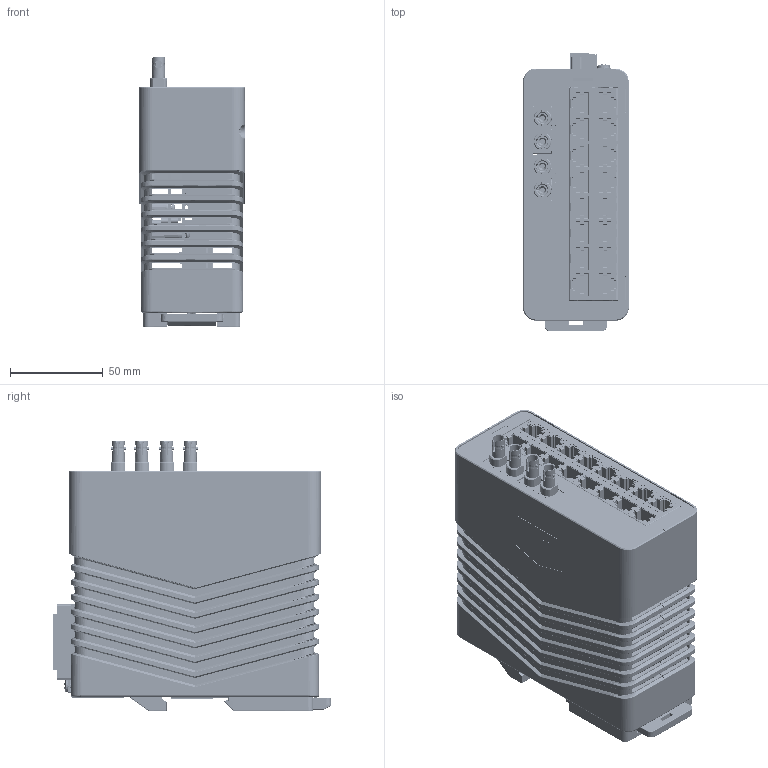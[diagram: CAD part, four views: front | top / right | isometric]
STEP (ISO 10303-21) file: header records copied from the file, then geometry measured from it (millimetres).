
FILE_DESCRIPTION (( 'STEP AP214' ), '1' );
FILE_NAME ('NT5018-FX2 & NT5018-GX2.STEP', '2023-01-25T14:44:34', ( '' ), ( '' ), 'SwSTEP 2.0', 'SolidWorks 2022', '' );
FILE_SCHEMA (( 'AUTOMOTIVE_DESIGN' ));
Length unit declared in the file: millimetre
Products named in the file (23): 11622_Wide; 11630; 11618; 96439A130_18-8 SS PRESS-FIT NUT FOR SHEET METAL_96439A130; 11620; 11860; 11836; NPTP0061; label bulkhead; 11635-01_Jubilee_18port_sp02; 11820_95345A444; 10670; Jubilee DB_Fiber_apr28; 11630_ cutouts concept wide; 11619; 11821; HWSMCZ08_95345A426; LOGO Sticker; NHF00001; 11703_11703; Front Overlays_ cutouts 16 RJ and FO Daughter; NT5018-FX2 & NT5018-GX2; 10778
Assembly tree (42 placements, depth 3):
  NT5018-FX2 & NT5018-GX2
    11619
    11620
    11622_Wide
    11618
    11703_11703
    11630
      11630_ cutouts concept wide
      96439A130_18-8 SS PRESS-FIT NUT FOR SHEET METAL_96439A130  x2
    HWSMCZ08_95345A426  x14
    11820_95345A444  x4
    11836  x2
    11821
    10778
    Front Overlays_ cutouts 16 RJ and FO Daughter
    label bulkhead
    LOGO Sticker
    Jubilee DB_Fiber_apr28
    11635-01_Jubilee_18port_sp02
    10670
    NPTP0061
    NHF00001  x2
    11860  x2
Bounding box: 57.23 x 150.55 x 145.75 mm (x, y, z)
Volume: 277864.7 mm3; surface area: 280509.6 mm2
Topology: 77 solids, 81 shells, 17017 faces, 45228 edges, 29108 vertices
Faces by surface type: plane 10719, cylinder 3704, bspline 1577, cone 528, torus 357, sphere 132
Entity records: 555336 total; most frequent: CARTESIAN_POINT 137751, ORIENTED_EDGE 72551, DIRECTION 64672, EDGE_CURVE 36298, VECTOR 27770, LINE 27770, VERTEX_POINT 23522, AXIS2_PLACEMENT_3D 18451
